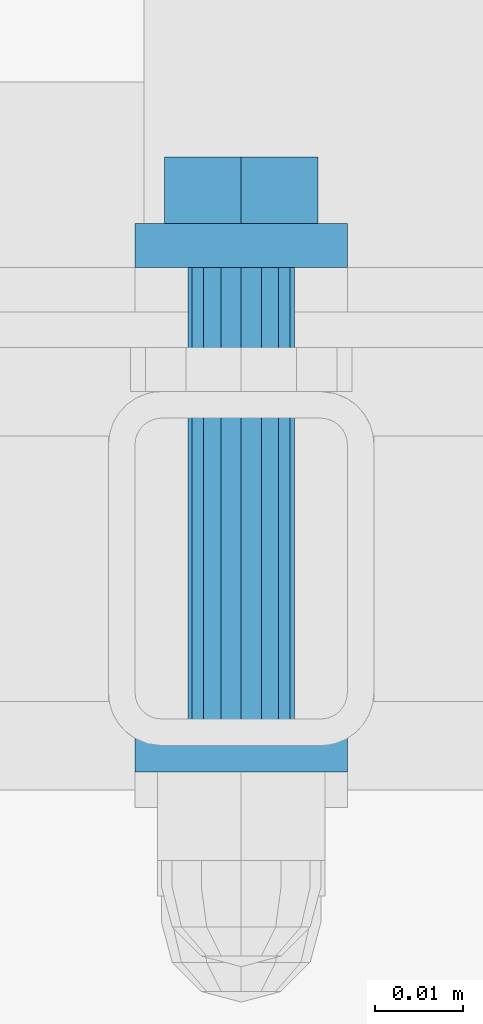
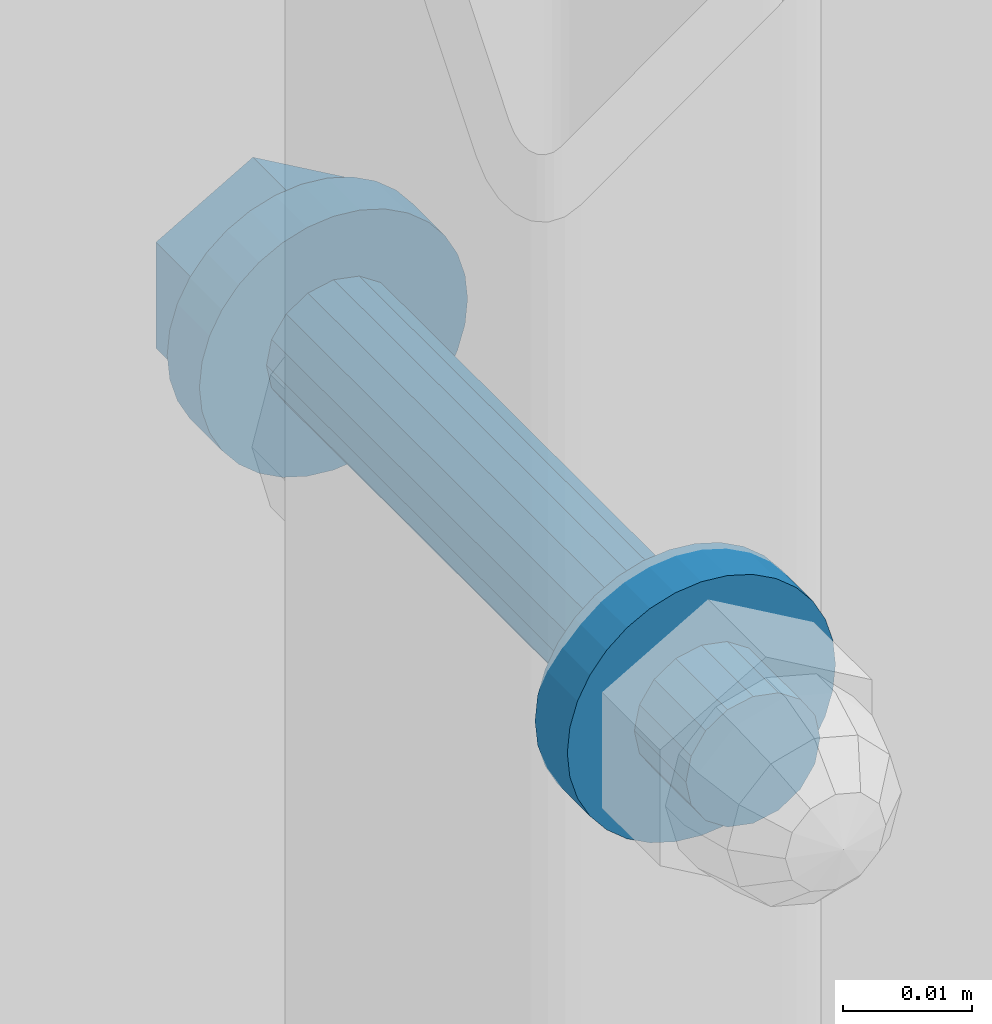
# One storey, part 43 of 116: 1 mechanical fastener.
"""IFC2X3 building model written with IfcOpenShell, lengths in millimetres."""

from ifc_helpers import new_model, entity, si_unit, converted_unit, origin_with_axes, place, context, project, spatial, faceted_brep, element, save


model = new_model("IFC2X3")

# Units and contexts
model_context = context("Model", 3, precision=1e-09, world=origin_with_axes())
ifc_project = project(units=[si_unit("LENGTHUNIT", "METRE", prefix="MILLI"), si_unit("AREAUNIT", "SQUARE_METRE"), si_unit("VOLUMEUNIT", "CUBIC_METRE"), converted_unit("PLANEANGLEUNIT", "DEGREE", entity("IfcPlaneAngleMeasure", 0.01745329), si_unit("PLANEANGLEUNIT", "RADIAN"), dimensions=[0, 0, 0, 0, 0, 0, 0])], contexts=[model_context])

# Site, building, storey
site_placement = place(None, origin_with_axes())
site = spatial("IfcSite", under=ifc_project, at=site_placement, Name="Site", CompositionType="ELEMENT")
building_placement = place(site_placement, origin_with_axes())
building = spatial("IfcBuilding", under=site, at=building_placement, Name="Struktur 1", CompositionType="ELEMENT")
storey_placement = place(building_placement, origin_with_axes())
storey = spatial("IfcBuildingStorey", under=building, at=storey_placement, Name="Default Storey", CompositionType="ELEMENT", Elevation=0.0)

# Mechanical fastener
mechanical_fastener_placement = place(None, origin_with_axes())
element("IfcMechanicalFastener", 1, at=mechanical_fastener_placement, inside=storey, ObjectType="-", NominalDiameter=12.0, NominalLength=70.0, context=model_context, shape_type="Brep", body=[
    faceted_brep([(58885.049134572, 9081.358883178, -378.0), (58885.049134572, 9083.858883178, -378.0), (58885.279711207, 9083.858883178, -380.341083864), (58885.279711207, 9081.358883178, -380.341083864), (58885.962580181, 9083.858883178, -382.592201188), (58885.962580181, 9081.358883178, -382.592201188), (58887.071499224, 9083.858883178, -384.666842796), (58887.071499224, 9081.358883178, -384.666842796), (58888.563853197, 9083.858883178, -386.485281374), (58888.563853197, 9081.358883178, -386.485281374), (58890.382291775, 9083.858883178, -387.977635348), (58890.382291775, 9081.358883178, -387.977635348), (58892.456933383, 9083.858883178, -389.08655439), (58892.456933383, 9081.358883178, -389.08655439), (58894.708050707, 9083.858883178, -389.769423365), (58894.708050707, 9081.358883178, -389.769423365), (58897.049134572, 9083.858883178, -390.0), (58897.049134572, 9081.358883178, -390.0), (58899.390218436, 9083.858883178, -389.769423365), (58899.390218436, 9081.358883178, -389.769423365), (58901.64133576, 9083.858883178, -389.08655439), (58901.64133576, 9081.358883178, -389.08655439), (58903.715977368, 9083.858883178, -387.977635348), (58903.715977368, 9081.358883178, -387.977635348), (58905.534415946, 9083.858883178, -386.485281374), (58905.534415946, 9081.358883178, -386.485281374), (58907.026769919, 9083.858883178, -384.666842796), (58907.026769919, 9081.358883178, -384.666842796), (58908.135688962, 9083.858883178, -382.592201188), (58908.135688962, 9081.358883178, -382.592201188), (58908.818557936, 9083.858883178, -380.341083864), (58908.818557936, 9081.358883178, -380.341083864), (58909.049134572, 9083.858883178, -378.0), (58909.049134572, 9081.358883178, -378.0), (58908.818557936, 9083.858883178, -375.658916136), (58908.818557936, 9081.358883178, -375.658916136), (58908.135688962, 9083.858883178, -373.407798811), (58908.135688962, 9081.358883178, -373.407798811), (58907.026769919, 9083.858883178, -371.333157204), (58907.026769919, 9081.358883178, -371.333157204), (58905.534415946, 9083.858883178, -369.514718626), (58905.534415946, 9081.358883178, -369.514718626), (58903.715977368, 9083.858883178, -368.022364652), (58903.715977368, 9081.358883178, -368.022364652), (58901.64133576, 9083.858883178, -366.91344561), (58901.64133576, 9081.358883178, -366.91344561), (58899.390218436, 9083.858883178, -366.230576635), (58899.390218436, 9081.358883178, -366.230576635), (58897.049134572, 9083.858883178, -366.0), (58897.049134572, 9081.358883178, -366.0), (58894.708050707, 9083.858883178, -366.230576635), (58894.708050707, 9081.358883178, -366.230576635), (58892.456933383, 9083.858883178, -366.91344561), (58892.456933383, 9081.358883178, -366.91344561), (58890.382291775, 9083.858883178, -368.022364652), (58890.382291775, 9081.358883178, -368.022364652), (58888.563853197, 9083.858883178, -369.514718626), (58888.563853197, 9081.358883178, -369.514718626), (58887.071499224, 9083.858883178, -371.333157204), (58887.071499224, 9081.358883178, -371.333157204), (58885.962580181, 9083.858883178, -373.407798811), (58885.962580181, 9081.358883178, -373.407798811), (58885.279711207, 9083.858883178, -375.658916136), (58885.279711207, 9081.358883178, -375.658916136)], [[[0, 1, 2, 3]], [[3, 2, 4, 5]], [[5, 4, 6, 7]], [[7, 6, 8, 9]], [[9, 8, 10, 11]], [[11, 10, 12, 13]], [[13, 12, 14, 15]], [[15, 14, 16, 17]], [[17, 16, 18, 19]], [[19, 18, 20, 21]], [[21, 20, 22, 23]], [[23, 22, 24, 25]], [[25, 24, 26, 27]], [[27, 26, 28, 29]], [[29, 28, 30, 31]], [[31, 30, 32, 33]], [[33, 32, 34, 35]], [[35, 34, 36, 37]], [[37, 36, 38, 39]], [[39, 38, 40, 41]], [[41, 40, 42, 43]], [[43, 42, 44, 45]], [[45, 44, 46, 47]], [[47, 46, 48, 49]], [[49, 48, 50, 51]], [[51, 50, 52, 53]], [[53, 52, 54, 55]], [[55, 54, 56, 57]], [[57, 56, 58, 59]], [[59, 58, 60, 61]], [[61, 60, 62, 63]], [[63, 62, 1, 0]], [[2, 1, 62, 60, 58, 56, 54, 52, 50, 48, 46, 44, 42, 40, 38, 36, 34, 32, 30, 28, 26, 24, 22, 20, 18, 16, 14, 12, 10, 8, 6, 4]], [[63, 0, 3, 5, 7, 9, 11, 13, 15, 17, 19, 21, 23, 25, 27, 29, 31, 33, 35, 37, 39, 41, 43, 45, 47, 49, 51, 53, 55, 57, 59, 61]]]),
    faceted_brep([(58885.049134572, 9083.858883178, -378.0), (58885.049134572, 9086.358883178, -378.0), (58885.279711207, 9086.358883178, -380.341083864), (58885.279711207, 9083.858883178, -380.341083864), (58885.962580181, 9086.358883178, -382.592201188), (58885.962580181, 9083.858883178, -382.592201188), (58887.071499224, 9086.358883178, -384.666842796), (58887.071499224, 9083.858883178, -384.666842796), (58888.563853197, 9086.358883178, -386.485281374), (58888.563853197, 9083.858883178, -386.485281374), (58890.382291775, 9086.358883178, -387.977635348), (58890.382291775, 9083.858883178, -387.977635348), (58892.456933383, 9086.358883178, -389.08655439), (58892.456933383, 9083.858883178, -389.08655439), (58894.708050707, 9086.358883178, -389.769423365), (58894.708050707, 9083.858883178, -389.769423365), (58897.049134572, 9086.358883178, -390.0), (58897.049134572, 9083.858883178, -390.0), (58899.390218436, 9086.358883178, -389.769423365), (58899.390218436, 9083.858883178, -389.769423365), (58901.64133576, 9086.358883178, -389.08655439), (58901.64133576, 9083.858883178, -389.08655439), (58903.715977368, 9086.358883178, -387.977635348), (58903.715977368, 9083.858883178, -387.977635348), (58905.534415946, 9086.358883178, -386.485281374), (58905.534415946, 9083.858883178, -386.485281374), (58907.026769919, 9086.358883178, -384.666842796), (58907.026769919, 9083.858883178, -384.666842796), (58908.135688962, 9086.358883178, -382.592201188), (58908.135688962, 9083.858883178, -382.592201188), (58908.818557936, 9086.358883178, -380.341083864), (58908.818557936, 9083.858883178, -380.341083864), (58909.049134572, 9086.358883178, -378.0), (58909.049134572, 9083.858883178, -378.0), (58908.818557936, 9086.358883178, -375.658916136), (58908.818557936, 9083.858883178, -375.658916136), (58908.135688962, 9086.358883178, -373.407798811), (58908.135688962, 9083.858883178, -373.407798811), (58907.026769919, 9086.358883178, -371.333157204), (58907.026769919, 9083.858883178, -371.333157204), (58905.534415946, 9086.358883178, -369.514718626), (58905.534415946, 9083.858883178, -369.514718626), (58903.715977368, 9086.358883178, -368.022364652), (58903.715977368, 9083.858883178, -368.022364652), (58901.64133576, 9086.358883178, -366.91344561), (58901.64133576, 9083.858883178, -366.91344561), (58899.390218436, 9086.358883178, -366.230576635), (58899.390218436, 9083.858883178, -366.230576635), (58897.049134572, 9086.358883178, -366.0), (58897.049134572, 9083.858883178, -366.0), (58894.708050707, 9086.358883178, -366.230576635), (58894.708050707, 9083.858883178, -366.230576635), (58892.456933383, 9086.358883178, -366.91344561), (58892.456933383, 9083.858883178, -366.91344561), (58890.382291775, 9086.358883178, -368.022364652), (58890.382291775, 9083.858883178, -368.022364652), (58888.563853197, 9086.358883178, -369.514718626), (58888.563853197, 9083.858883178, -369.514718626), (58887.071499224, 9086.358883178, -371.333157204), (58887.071499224, 9083.858883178, -371.333157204), (58885.962580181, 9086.358883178, -373.407798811), (58885.962580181, 9083.858883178, -373.407798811), (58885.279711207, 9086.358883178, -375.658916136), (58885.279711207, 9083.858883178, -375.658916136)], [[[0, 1, 2, 3]], [[3, 2, 4, 5]], [[5, 4, 6, 7]], [[7, 6, 8, 9]], [[9, 8, 10, 11]], [[11, 10, 12, 13]], [[13, 12, 14, 15]], [[15, 14, 16, 17]], [[17, 16, 18, 19]], [[19, 18, 20, 21]], [[21, 20, 22, 23]], [[23, 22, 24, 25]], [[25, 24, 26, 27]], [[27, 26, 28, 29]], [[29, 28, 30, 31]], [[31, 30, 32, 33]], [[33, 32, 34, 35]], [[35, 34, 36, 37]], [[37, 36, 38, 39]], [[39, 38, 40, 41]], [[41, 40, 42, 43]], [[43, 42, 44, 45]], [[45, 44, 46, 47]], [[47, 46, 48, 49]], [[49, 48, 50, 51]], [[51, 50, 52, 53]], [[53, 52, 54, 55]], [[55, 54, 56, 57]], [[57, 56, 58, 59]], [[59, 58, 60, 61]], [[61, 60, 62, 63]], [[63, 62, 1, 0]], [[2, 1, 62, 60, 58, 56, 54, 52, 50, 48, 46, 44, 42, 40, 38, 36, 34, 32, 30, 28, 26, 24, 22, 20, 18, 16, 14, 12, 10, 8, 6, 4]], [[63, 0, 3, 5, 7, 9, 11, 13, 15, 17, 19, 21, 23, 25, 27, 29, 31, 33, 35, 37, 39, 41, 43, 45, 47, 49, 51, 53, 55, 57, 59, 61]]]),
    faceted_brep([(58905.722378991, 9093.858883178, -383.0075), (58905.722378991, 9086.358883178, -383.0075), (58897.049134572, 9086.358883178, -388.015), (58897.049134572, 9093.858883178, -388.015), (58888.375890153, 9086.358883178, -383.0075), (58888.375890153, 9093.858883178, -383.0075), (58888.375890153, 9086.358883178, -372.9925), (58888.375890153, 9093.858883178, -372.9925), (58897.049134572, 9086.358883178, -367.985), (58897.049134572, 9093.858883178, -367.985), (58905.722378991, 9086.358883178, -372.9925), (58905.722378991, 9093.858883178, -372.9925)], [[[0, 1, 2, 3]], [[3, 2, 4, 5]], [[5, 4, 6, 7]], [[7, 6, 8, 9]], [[9, 8, 10, 11]], [[11, 10, 1, 0]], [[3, 5, 7, 9, 11, 0]], [[2, 1, 10, 8, 6, 4]]]),
    faceted_brep([(58891.049134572, 9029.359883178, -378.0), (58891.049134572, 9081.358883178, -378.0), (58891.505857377, 9081.358883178, -380.296100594), (58891.505857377, 9029.359883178, -380.296100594), (58892.806493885, 9081.358883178, -382.242640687), (58892.806493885, 9029.359883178, -382.242640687), (58894.753033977, 9081.358883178, -383.543277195), (58894.753033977, 9029.359883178, -383.543277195), (58897.049134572, 9081.358883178, -384.0), (58897.049134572, 9029.359883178, -384.0), (58899.345235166, 9081.358883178, -383.543277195), (58899.345235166, 9029.359883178, -383.543277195), (58901.291775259, 9081.358883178, -382.242640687), (58901.291775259, 9029.359883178, -382.242640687), (58902.592411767, 9081.358883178, -380.296100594), (58902.592411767, 9029.359883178, -380.296100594), (58903.049134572, 9081.358883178, -378.0), (58903.049134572, 9029.359883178, -378.0), (58902.592411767, 9081.358883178, -375.703899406), (58902.592411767, 9029.359883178, -375.703899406), (58901.291775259, 9081.358883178, -373.757359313), (58901.291775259, 9029.359883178, -373.757359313), (58899.345235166, 9081.358883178, -372.456722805), (58899.345235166, 9029.359883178, -372.456722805), (58897.049134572, 9081.358883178, -372.0), (58897.049134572, 9029.359883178, -372.0), (58894.753033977, 9081.358883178, -372.456722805), (58894.753033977, 9029.359883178, -372.456722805), (58892.806493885, 9081.358883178, -373.757359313), (58892.806493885, 9029.359883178, -373.757359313), (58891.505857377, 9081.358883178, -375.703899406), (58891.505857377, 9029.359883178, -375.703899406)], [[[0, 1, 2, 3]], [[3, 2, 4, 5]], [[5, 4, 6, 7]], [[7, 6, 8, 9]], [[9, 8, 10, 11]], [[11, 10, 12, 13]], [[13, 12, 14, 15]], [[15, 14, 16, 17]], [[17, 16, 18, 19]], [[19, 18, 20, 21]], [[21, 20, 22, 23]], [[23, 22, 24, 25]], [[25, 24, 26, 27]], [[27, 26, 28, 29]], [[29, 28, 30, 31]], [[31, 30, 1, 0]], [[2, 1, 30, 28, 26, 24, 22, 20, 18, 16, 14, 12, 10, 8, 6, 4]], [[31, 0, 3, 5, 7, 9, 11, 13, 15, 17, 19, 21, 23, 25, 27, 29]]]),
    faceted_brep([(58885.049134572, 9026.859883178, -378.0), (58885.049134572, 9029.359883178, -378.0), (58885.279711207, 9029.359883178, -380.341083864), (58885.279711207, 9026.859883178, -380.341083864), (58885.962580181, 9029.359883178, -382.592201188), (58885.962580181, 9026.859883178, -382.592201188), (58887.071499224, 9029.359883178, -384.666842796), (58887.071499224, 9026.859883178, -384.666842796), (58888.563853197, 9029.359883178, -386.485281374), (58888.563853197, 9026.859883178, -386.485281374), (58890.382291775, 9029.359883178, -387.977635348), (58890.382291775, 9026.859883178, -387.977635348), (58892.456933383, 9029.359883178, -389.08655439), (58892.456933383, 9026.859883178, -389.08655439), (58894.708050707, 9029.359883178, -389.769423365), (58894.708050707, 9026.859883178, -389.769423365), (58897.049134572, 9029.359883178, -390.0), (58897.049134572, 9026.859883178, -390.0), (58899.390218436, 9029.359883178, -389.769423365), (58899.390218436, 9026.859883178, -389.769423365), (58901.64133576, 9029.359883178, -389.08655439), (58901.64133576, 9026.859883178, -389.08655439), (58903.715977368, 9029.359883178, -387.977635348), (58903.715977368, 9026.859883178, -387.977635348), (58905.534415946, 9029.359883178, -386.485281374), (58905.534415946, 9026.859883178, -386.485281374), (58907.026769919, 9029.359883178, -384.666842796), (58907.026769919, 9026.859883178, -384.666842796), (58908.135688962, 9029.359883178, -382.592201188), (58908.135688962, 9026.859883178, -382.592201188), (58908.818557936, 9029.359883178, -380.341083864), (58908.818557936, 9026.859883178, -380.341083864), (58909.049134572, 9029.359883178, -378.0), (58909.049134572, 9026.859883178, -378.0), (58908.818557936, 9029.359883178, -375.658916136), (58908.818557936, 9026.859883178, -375.658916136), (58908.135688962, 9029.359883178, -373.407798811), (58908.135688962, 9026.859883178, -373.407798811), (58907.026769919, 9029.359883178, -371.333157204), (58907.026769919, 9026.859883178, -371.333157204), (58905.534415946, 9029.359883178, -369.514718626), (58905.534415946, 9026.859883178, -369.514718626), (58903.715977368, 9029.359883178, -368.022364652), (58903.715977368, 9026.859883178, -368.022364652), (58901.64133576, 9029.359883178, -366.91344561), (58901.64133576, 9026.859883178, -366.91344561), (58899.390218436, 9029.359883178, -366.230576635), (58899.390218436, 9026.859883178, -366.230576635), (58897.049134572, 9029.359883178, -366.0), (58897.049134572, 9026.859883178, -366.0), (58894.708050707, 9029.359883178, -366.230576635), (58894.708050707, 9026.859883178, -366.230576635), (58892.456933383, 9029.359883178, -366.91344561), (58892.456933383, 9026.859883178, -366.91344561), (58890.382291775, 9029.359883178, -368.022364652), (58890.382291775, 9026.859883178, -368.022364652), (58888.563853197, 9029.359883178, -369.514718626), (58888.563853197, 9026.859883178, -369.514718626), (58887.071499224, 9029.359883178, -371.333157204), (58887.071499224, 9026.859883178, -371.333157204), (58885.962580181, 9029.359883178, -373.407798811), (58885.962580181, 9026.859883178, -373.407798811), (58885.279711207, 9029.359883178, -375.658916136), (58885.279711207, 9026.859883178, -375.658916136)], [[[0, 1, 2, 3]], [[3, 2, 4, 5]], [[5, 4, 6, 7]], [[7, 6, 8, 9]], [[9, 8, 10, 11]], [[11, 10, 12, 13]], [[13, 12, 14, 15]], [[15, 14, 16, 17]], [[17, 16, 18, 19]], [[19, 18, 20, 21]], [[21, 20, 22, 23]], [[23, 22, 24, 25]], [[25, 24, 26, 27]], [[27, 26, 28, 29]], [[29, 28, 30, 31]], [[31, 30, 32, 33]], [[33, 32, 34, 35]], [[35, 34, 36, 37]], [[37, 36, 38, 39]], [[39, 38, 40, 41]], [[41, 40, 42, 43]], [[43, 42, 44, 45]], [[45, 44, 46, 47]], [[47, 46, 48, 49]], [[49, 48, 50, 51]], [[51, 50, 52, 53]], [[53, 52, 54, 55]], [[55, 54, 56, 57]], [[57, 56, 58, 59]], [[59, 58, 60, 61]], [[61, 60, 62, 63]], [[63, 62, 1, 0]], [[2, 1, 62, 60, 58, 56, 54, 52, 50, 48, 46, 44, 42, 40, 38, 36, 34, 32, 30, 28, 26, 24, 22, 20, 18, 16, 14, 12, 10, 8, 6, 4]], [[63, 0, 3, 5, 7, 9, 11, 13, 15, 17, 19, 21, 23, 25, 27, 29, 31, 33, 35, 37, 39, 41, 43, 45, 47, 49, 51, 53, 55, 57, 59, 61]]]),
    faceted_brep([(58885.049134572, 9024.359883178, -378.0), (58885.049134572, 9026.859883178, -378.0), (58885.279711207, 9026.859883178, -380.341083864), (58885.279711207, 9024.359883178, -380.341083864), (58885.962580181, 9026.859883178, -382.592201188), (58885.962580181, 9024.359883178, -382.592201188), (58887.071499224, 9026.859883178, -384.666842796), (58887.071499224, 9024.359883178, -384.666842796), (58888.563853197, 9026.859883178, -386.485281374), (58888.563853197, 9024.359883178, -386.485281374), (58890.382291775, 9026.859883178, -387.977635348), (58890.382291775, 9024.359883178, -387.977635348), (58892.456933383, 9026.859883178, -389.08655439), (58892.456933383, 9024.359883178, -389.08655439), (58894.708050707, 9026.859883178, -389.769423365), (58894.708050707, 9024.359883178, -389.769423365), (58897.049134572, 9026.859883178, -390.0), (58897.049134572, 9024.359883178, -390.0), (58899.390218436, 9026.859883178, -389.769423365), (58899.390218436, 9024.359883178, -389.769423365), (58901.64133576, 9026.859883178, -389.08655439), (58901.64133576, 9024.359883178, -389.08655439), (58903.715977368, 9026.859883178, -387.977635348), (58903.715977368, 9024.359883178, -387.977635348), (58905.534415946, 9026.859883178, -386.485281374), (58905.534415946, 9024.359883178, -386.485281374), (58907.026769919, 9026.859883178, -384.666842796), (58907.026769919, 9024.359883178, -384.666842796), (58908.135688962, 9026.859883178, -382.592201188), (58908.135688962, 9024.359883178, -382.592201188), (58908.818557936, 9026.859883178, -380.341083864), (58908.818557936, 9024.359883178, -380.341083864), (58909.049134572, 9026.859883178, -378.0), (58909.049134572, 9024.359883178, -378.0), (58908.818557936, 9026.859883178, -375.658916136), (58908.818557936, 9024.359883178, -375.658916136), (58908.135688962, 9026.859883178, -373.407798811), (58908.135688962, 9024.359883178, -373.407798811), (58907.026769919, 9026.859883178, -371.333157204), (58907.026769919, 9024.359883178, -371.333157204), (58905.534415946, 9026.859883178, -369.514718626), (58905.534415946, 9024.359883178, -369.514718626), (58903.715977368, 9026.859883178, -368.022364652), (58903.715977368, 9024.359883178, -368.022364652), (58901.64133576, 9026.859883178, -366.91344561), (58901.64133576, 9024.359883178, -366.91344561), (58899.390218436, 9026.859883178, -366.230576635), (58899.390218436, 9024.359883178, -366.230576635), (58897.049134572, 9026.859883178, -366.0), (58897.049134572, 9024.359883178, -366.0), (58894.708050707, 9026.859883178, -366.230576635), (58894.708050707, 9024.359883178, -366.230576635), (58892.456933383, 9026.859883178, -366.91344561), (58892.456933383, 9024.359883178, -366.91344561), (58890.382291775, 9026.859883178, -368.022364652), (58890.382291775, 9024.359883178, -368.022364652), (58888.563853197, 9026.859883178, -369.514718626), (58888.563853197, 9024.359883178, -369.514718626), (58887.071499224, 9026.859883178, -371.333157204), (58887.071499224, 9024.359883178, -371.333157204), (58885.962580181, 9026.859883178, -373.407798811), (58885.962580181, 9024.359883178, -373.407798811), (58885.279711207, 9026.859883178, -375.658916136), (58885.279711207, 9024.359883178, -375.658916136)], [[[0, 1, 2, 3]], [[3, 2, 4, 5]], [[5, 4, 6, 7]], [[7, 6, 8, 9]], [[9, 8, 10, 11]], [[11, 10, 12, 13]], [[13, 12, 14, 15]], [[15, 14, 16, 17]], [[17, 16, 18, 19]], [[19, 18, 20, 21]], [[21, 20, 22, 23]], [[23, 22, 24, 25]], [[25, 24, 26, 27]], [[27, 26, 28, 29]], [[29, 28, 30, 31]], [[31, 30, 32, 33]], [[33, 32, 34, 35]], [[35, 34, 36, 37]], [[37, 36, 38, 39]], [[39, 38, 40, 41]], [[41, 40, 42, 43]], [[43, 42, 44, 45]], [[45, 44, 46, 47]], [[47, 46, 48, 49]], [[49, 48, 50, 51]], [[51, 50, 52, 53]], [[53, 52, 54, 55]], [[55, 54, 56, 57]], [[57, 56, 58, 59]], [[59, 58, 60, 61]], [[61, 60, 62, 63]], [[63, 62, 1, 0]], [[2, 1, 62, 60, 58, 56, 54, 52, 50, 48, 46, 44, 42, 40, 38, 36, 34, 32, 30, 28, 26, 24, 22, 20, 18, 16, 14, 12, 10, 8, 6, 4]], [[63, 0, 3, 5, 7, 9, 11, 13, 15, 17, 19, 21, 23, 25, 27, 29, 31, 33, 35, 37, 39, 41, 43, 45, 47, 49, 51, 53, 55, 57, 59, 61]]]),
    faceted_brep([(58891.049134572, 9016.358883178, -378.0), (58891.049134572, 9024.359883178, -378.0), (58891.505857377, 9024.359883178, -380.296100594), (58891.505857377, 9016.358883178, -380.296100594), (58892.806493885, 9024.359883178, -382.242640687), (58892.806493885, 9016.358883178, -382.242640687), (58894.753033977, 9024.359883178, -383.543277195), (58894.753033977, 9016.358883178, -383.543277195), (58897.049134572, 9024.359883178, -384.0), (58897.049134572, 9016.358883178, -384.0), (58899.345235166, 9024.359883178, -383.543277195), (58899.345235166, 9016.358883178, -383.543277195), (58901.291775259, 9024.359883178, -382.242640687), (58901.291775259, 9016.358883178, -382.242640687), (58902.592411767, 9024.359883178, -380.296100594), (58902.592411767, 9016.358883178, -380.296100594), (58903.049134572, 9024.359883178, -378.0), (58903.049134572, 9016.358883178, -378.0), (58902.592411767, 9024.359883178, -375.703899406), (58902.592411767, 9016.358883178, -375.703899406), (58901.291775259, 9024.359883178, -373.757359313), (58901.291775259, 9016.358883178, -373.757359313), (58899.345235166, 9024.359883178, -372.456722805), (58899.345235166, 9016.358883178, -372.456722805), (58897.049134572, 9024.359883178, -372.0), (58897.049134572, 9016.358883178, -372.0), (58894.753033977, 9024.359883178, -372.456722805), (58894.753033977, 9016.358883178, -372.456722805), (58892.806493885, 9024.359883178, -373.757359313), (58892.806493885, 9016.358883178, -373.757359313), (58891.505857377, 9024.359883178, -375.703899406), (58891.505857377, 9016.358883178, -375.703899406)], [[[0, 1, 2, 3]], [[3, 2, 4, 5]], [[5, 4, 6, 7]], [[7, 6, 8, 9]], [[9, 8, 10, 11]], [[11, 10, 12, 13]], [[13, 12, 14, 15]], [[15, 14, 16, 17]], [[17, 16, 18, 19]], [[19, 18, 20, 21]], [[21, 20, 22, 23]], [[23, 22, 24, 25]], [[25, 24, 26, 27]], [[27, 26, 28, 29]], [[29, 28, 30, 31]], [[31, 30, 1, 0]], [[2, 1, 30, 28, 26, 24, 22, 20, 18, 16, 14, 12, 10, 8, 6, 4]], [[31, 0, 3, 5, 7, 9, 11, 13, 15, 17, 19, 21, 23, 25, 27, 29]]]),
])

save(model, "model.ifc")
